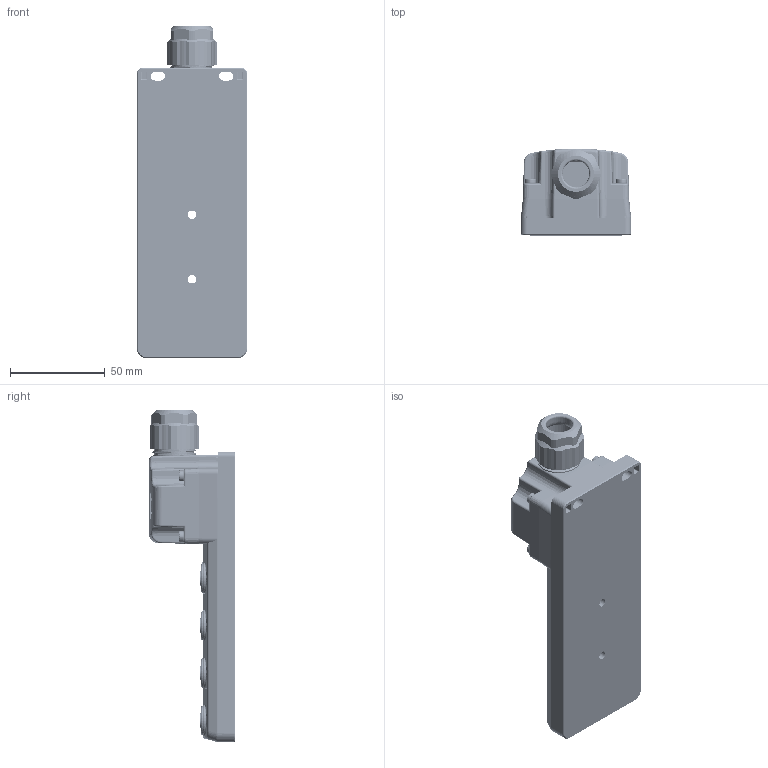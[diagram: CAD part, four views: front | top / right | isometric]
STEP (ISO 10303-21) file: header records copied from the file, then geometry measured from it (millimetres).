
FILE_DESCRIPTION((''),'2;1');
FILE_NAME('24P8SE_24P8SN_','2022-08-01T',('PC'),(''),'PRO/ENGINEER BY PARAMETRIC TECHNOLOGY CORPORATION, 2009220','PRO/ENGINEER BY PARAMETRIC TECHNOLOGY CORPORATION, 2009220','');
FILE_SCHEMA(('CONFIG_CONTROL_DESIGN'));
Products named in the file (1): 24P8SE_24P8SN_
Bounding box: 58 x 45.6 x 175 mm (x, y, z)
Surface area: 67161.7 mm2 (no closed solid volume)
Topology: 0 solids, 25 shells, 4589 faces, 12994 edges, 8537 vertices
Faces by surface type: plane 2324, cylinder 1217, bspline 606, cone 206, torus 178, revolution 22, extrusion 22, sphere 14
Full cylindrical faces by diameter (mm): 1.5 x9, 1.6 x8
Entity records: 219245 total; most frequent: CARTESIAN_POINT 105246, ORIENTED_EDGE 25628, DIRECTION 20830, EDGE_CURVE 12992, VERTEX_POINT 8537, VECTOR 7176, LINE 7154, AXIS2_PLACEMENT_3D 6816
